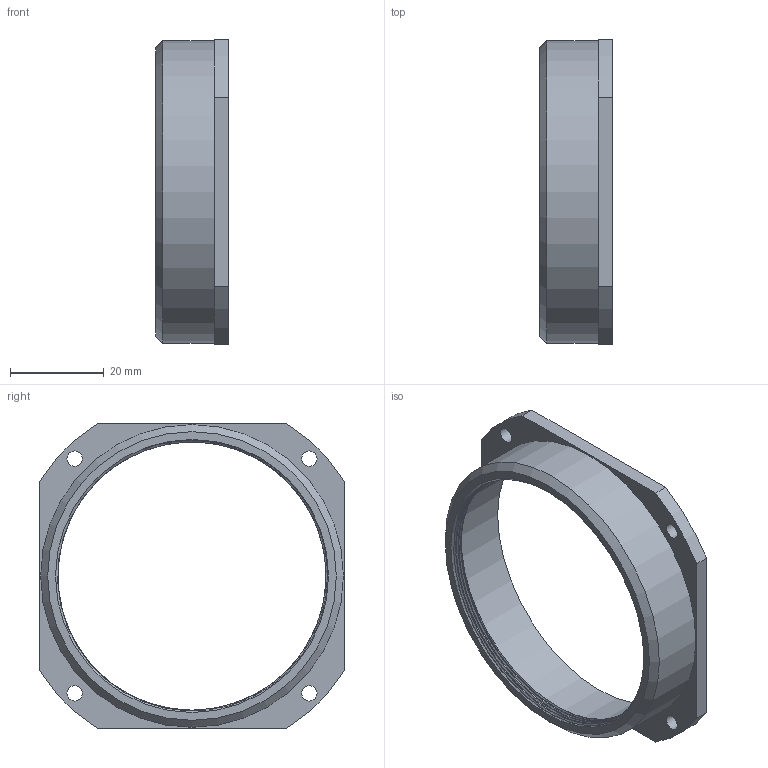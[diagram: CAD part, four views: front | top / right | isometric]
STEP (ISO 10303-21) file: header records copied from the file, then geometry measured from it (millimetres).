
FILE_DESCRIPTION(/* description */ ('NahlinsenAdapter'),/* implementation_level */ '2;1');
FILE_NAME(/* name */ 'KSM_251-18-1-00-10_NahlinsenAdapter M58x0,75.stp',/* time_stamp */ '2026-09-11T10:11:35+02:00',/* author */ ('khw'),/* organization */ ('TIS/ Germany'),/* preprocessor_version */ 'ST-DEVELOPER v20',/* originating_system */ 'Autodesk Inventor 2025',/* authorisation */ '6767,5 mm^3');
FILE_SCHEMA (('AUTOMOTIVE_DESIGN { 1 0 10303 214 3 1 1 }'));
Length unit declared in the file: millimetre
Products named in the file (1): KSM_251-18-1-00-10_NahlinsenAdapter M58x0,75
Bounding box: 15.5 x 65 x 65 mm (x, y, z)
Volume: 8075.1 mm3; surface area: 9047.1 mm2
Topology: 1 solids, 1 shells, 32 faces, 82 edges, 54 vertices
Faces by surface type: cylinder 19, plane 8, cone 3, bspline 2
Full cylindrical faces by diameter (mm): 3.3 x4, 57.188 x3, 58 x3, 61 x1, 64.5 x1
Entity records: 2558 total; most frequent: CARTESIAN_POINT 1695, ORIENTED_EDGE 164, DIRECTION 150, EDGE_CURVE 82, AXIS2_PLACEMENT_3D 59, VERTEX_POINT 54, EDGE_LOOP 44, STYLED_ITEM 33
